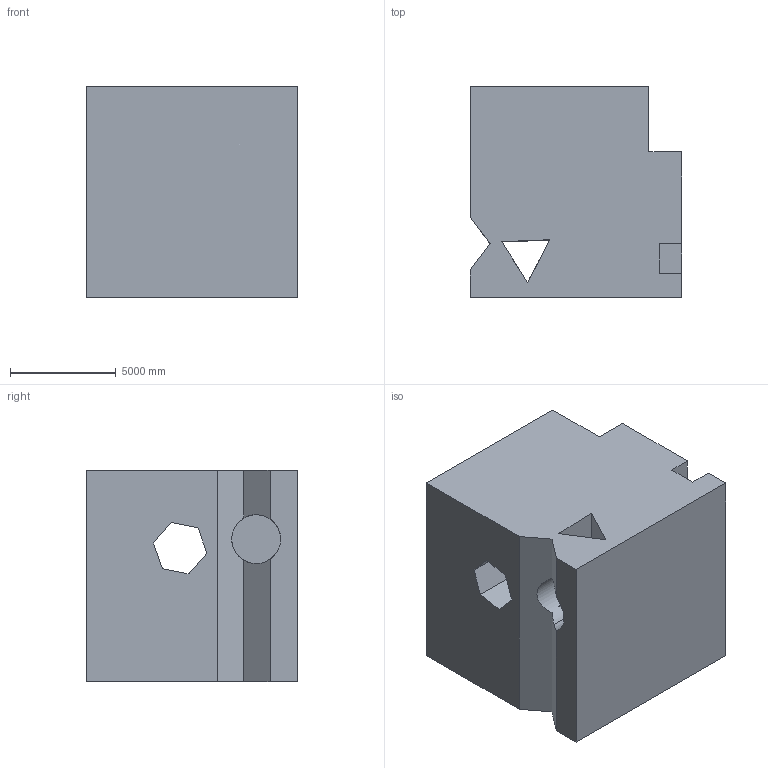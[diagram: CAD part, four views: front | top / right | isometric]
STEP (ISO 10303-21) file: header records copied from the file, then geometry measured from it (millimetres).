
FILE_DESCRIPTION (( 'STEP AP203' ), '1' );
FILE_NAME ('1675.STEP', '2022-08-19T11:37:18', ( 'user' ), ( '' ), 'SwSTEP 2.0', 'SolidWorks 2021', '' );
FILE_SCHEMA (( 'CONFIG_CONTROL_DESIGN' ));
Length unit declared in the file: centimetre
Products named in the file (1): 1675
Bounding box: 10000 x 10000 x 10000 mm (x, y, z)
Volume: 817040780879.8 mm3; surface area: 757693203 mm2
Topology: 1 solids, 1 shells, 33 faces, 99 edges, 66 vertices
Faces by surface type: plane 30, cylinder 3
Entity records: 1185 total; most frequent: CARTESIAN_POINT 238, ORIENTED_EDGE 198, DIRECTION 157, EDGE_CURVE 99, VECTOR 83, LINE 83, VERTEX_POINT 66, AXIS2_PLACEMENT_3D 37
